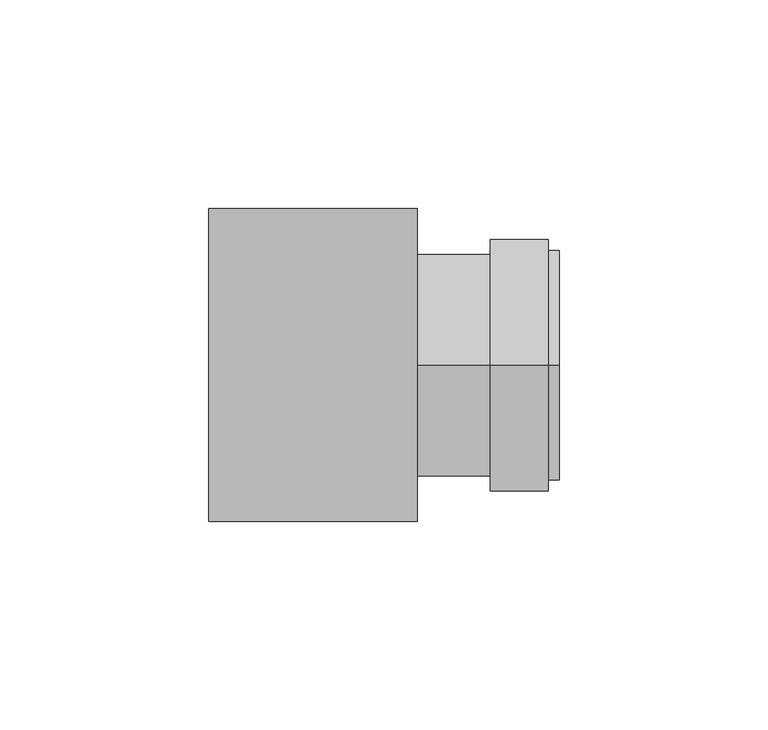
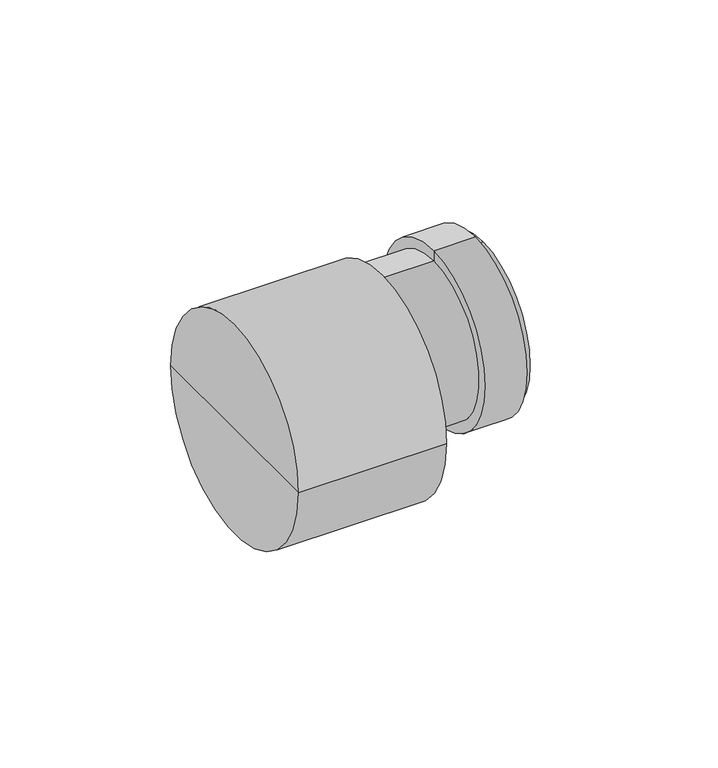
"""IFC4 building model written with IfcOpenShell, lengths in millimetres: pipe fitting geometry, NLRS_52_PIF_UN_Geberit Silent-PP verloop excentrisch, kort_PRO_135379 : DN50-100 / d50-110 - OD."""

from ifc_helpers import new_model, si_unit, frame, origin, place, context, project, spatial, polyline, circle_curve, source, transform, mapped, element, save
from ifc_brep_helpers import plane_surface, cylinder_surface, revolved_surface, advanced_brep


def pipe_fitting_2b616865(model_context):
    return source(origin(), model_context, "Body", "AdvancedBrep", [
        advanced_brep(
        [(42.5, 0.0, 35.0), (8.5, 0.0, 35.0), (8.5, 25.0, 10.0), (8.5, 0.0, -15.0), (42.5, 0.0, -15.0), (42.5, 25.0, 10.0), (42.5, -25.0, 10.0), (8.5, -25.0, 10.0), (42.5, 0.0, -17.6), (42.5, 0.0, 37.6), (39.9, 0.0, -17.6), (39.9, 0.0, 37.6), (39.9, 0.0, -20.2), (39.9, 0.0, 40.2), (25.9, 0.0, -20.2), (25.9, 0.0, 40.2), (8.5, 0.0, 36.6), (8.5, 0.0, -16.6), (25.9, 0.0, -16.6), (25.9, 0.0, 36.6)],
        [
            (0, 1),
            (1, 2, circle_curve(frame((8.5, 0.0, 10.0), z_axis=(-1.0, 0.0, 0.0), x_axis=(0.0, 0.0, 1.0)), 25.0)),
            (2, 3, circle_curve(frame((8.5, 0.0, 10.0), z_axis=(-1.0, 0.0, 0.0), x_axis=(0.0, 0.0, 1.0)), 25.0)),
            (3, 4),
            (4, 5, circle_curve(frame((42.5, 0.0, 10.0), z_axis=(1.0, 0.0, 0.0), x_axis=(0.0, 0.0, 1.0)), 25.0)),
            (5, 0, circle_curve(frame((42.5, 0.0, 10.0), z_axis=(1.0, 0.0, 0.0), x_axis=(0.0, 0.0, 1.0)), 25.0)),
            (0, 6, circle_curve(frame((42.5, 0.0, 10.0), z_axis=(1.0, 0.0, 0.0), x_axis=(0.0, 0.0, 1.0)), 25.0)),
            (6, 4, circle_curve(frame((42.5, 0.0, 10.0), z_axis=(1.0, 0.0, 0.0), x_axis=(0.0, 0.0, 1.0)), 25.0)),
            (3, 7, circle_curve(frame((8.5, 0.0, 10.0), z_axis=(-1.0, 0.0, 0.0), x_axis=(0.0, 0.0, 1.0)), 25.0)),
            (7, 1, circle_curve(frame((8.5, 0.0, 10.0), z_axis=(-1.0, 0.0, 0.0), x_axis=(0.0, 0.0, 1.0)), 25.0)),
            (8, 9, circle_curve(frame((42.5, 0.0, 10.0), z_axis=(1.0, 0.0, 0.0), x_axis=(0.0, 0.0, 1.0)), 27.6)),
            (9, 0),
            (4, 8),
            (9, 8, circle_curve(frame((42.5, 0.0, 10.0), z_axis=(1.0, 0.0, 0.0), x_axis=(0.0, 0.0, 1.0)), 27.6)),
            (8, 10),
            (10, 11, circle_curve(frame((39.9, 0.0, 10.0), z_axis=(1.0, 0.0, 0.0), x_axis=(0.0, 0.0, 1.0)), 27.6)),
            (11, 9),
            (11, 10, circle_curve(frame((39.9, 0.0, 10.0), z_axis=(1.0, 0.0, 0.0), x_axis=(0.0, 0.0, 1.0)), 27.6)),
            (10, 12),
            (12, 13, circle_curve(frame((39.9, 0.0, 10.0), z_axis=(1.0, 0.0, 0.0), x_axis=(0.0, 0.0, 1.0)), 30.2)),
            (13, 11),
            (13, 12, circle_curve(frame((39.9, 0.0, 10.0), z_axis=(1.0, 0.0, 0.0), x_axis=(0.0, 0.0, 1.0)), 30.2)),
            (12, 14),
            (14, 15, circle_curve(frame((25.9, 0.0, 10.0), z_axis=(1.0, 0.0, 0.0), x_axis=(0.0, 0.0, 1.0)), 30.2)),
            (15, 13),
            (15, 14, circle_curve(frame((25.9, 0.0, 10.0), z_axis=(1.0, 0.0, 0.0), x_axis=(0.0, 0.0, 1.0)), 30.2)),
            (1, 16),
            (16, 17, circle_curve(frame((8.5, 0.0, 10.0), z_axis=(-1.0, 0.0, 0.0), x_axis=(0.0, 0.0, 1.0)), 26.6)),
            (17, 3),
            (17, 16, circle_curve(frame((8.5, 0.0, 10.0), z_axis=(-1.0, 0.0, 0.0), x_axis=(0.0, 0.0, 1.0)), 26.6)),
            (18, 19, circle_curve(frame((25.9, 0.0, 10.0), z_axis=(1.0, 0.0, 0.0), x_axis=(0.0, 0.0, 1.0)), 26.6)),
            (19, 15),
            (14, 18),
            (19, 18, circle_curve(frame((25.9, 0.0, 10.0), z_axis=(1.0, 0.0, 0.0), x_axis=(0.0, 0.0, 1.0)), 26.6)),
            (18, 17),
            (16, 19),
        ],
        [
            revolved_surface(polyline([(8.5, 0.0, 35.0), (42.5, 0.0, 35.0)]), (3.7352713, 0.0, 10.0), (-1.0, 0.0, 0.0)),
            plane_surface(frame((42.5, 0.0, 10.0), z_axis=(1.0, 0.0, 0.0), x_axis=(0.0, 0.0, 1.0))),
            cylinder_surface(frame((3.7352713, 0.0, 10.0), z_axis=(-1.0, 0.0, 0.0), x_axis=(0.0, 0.0, 1.0)), 27.6),
            plane_surface(frame((39.9, 0.0, 10.0), z_axis=(1.0, 0.0, 0.0), x_axis=(0.0, 0.0, 1.0))),
            cylinder_surface(frame((3.7352713, 0.0, 10.0), z_axis=(-1.0, 0.0, 0.0), x_axis=(0.0, 0.0, 1.0)), 30.2),
            plane_surface(frame((8.5, 0.0, 10.0), z_axis=(-1.0, 0.0, 0.0), x_axis=(0.0, 0.0, 1.0))),
            plane_surface(frame((25.9, 0.0, 10.0), z_axis=(-1.0, 0.0, 0.0), x_axis=(0.0, 0.0, 1.0))),
            cylinder_surface(frame((-1447.7824091, 0.0, 10.0), z_axis=(-1.0, 0.0, 0.0), x_axis=(0.0, 0.0, 1.0)), 26.6),
        ],
        [
            (0, [[1, 2, 3, 4, 5, 6]]),
            (0, [[-1, 7, 8, -4, 9, 10]]),
            (1, [[11, 12, -6, -5, 13]]),
            (1, [[-12, 14, -13, -8, -7]]),
            (2, [[-11, 15, 16, 17]]),
            (2, [[-14, -17, 18, -15]]),
            (3, [[-16, 19, 20, 21]]),
            (3, [[-18, -21, 22, -19]]),
            (4, [[-20, 23, 24, 25]]),
            (4, [[-22, -25, 26, -23]]),
            (5, [[-2, 27, 28, 29, -3]]),
            (5, [[-9, -29, 30, -27, -10]]),
            (6, [[31, 32, -24, 33]]),
            (6, [[34, -33, -26, -32]]),
            (7, [[-31, 35, -28, 36]]),
            (7, [[-34, -36, -30, -35]]),
        ],
    ),
        advanced_brep(
        [(-14.5, 25.0, 10.0), (-14.5, -25.0, 10.0), (8.5, -25.0, 10.0), (8.5, -22.9128785, 0.0), (8.5, 22.9128785, 0.0), (8.5, 25.0, 10.0), (-14.5, 0.0, 10.0), (8.5, -37.5, 0.0), (8.5, 37.5, 0.0), (-41.5, -37.5, 0.0), (-41.5, 37.5, 0.0), (-41.5, 0.0, 0.0)],
        [
            (0, 1, circle_curve(frame((-14.5, 0.0, 10.0), z_axis=(-1.0, 0.0, 0.0), x_axis=(0.0, 1.0, 0.0)), 25.0)),
            (1, 2),
            (2, 3, circle_curve(frame((8.5, 0.0, 10.0), z_axis=(1.0, 0.0, 0.0), x_axis=(0.0, 1.0, 0.0)), 25.0)),
            (3, 4, circle_curve(frame((8.5, 0.0, 10.0), z_axis=(1.0, 0.0, 0.0), x_axis=(0.0, 1.0, 0.0)), 25.0)),
            (4, 5, circle_curve(frame((8.5, 0.0, 10.0), z_axis=(1.0, 0.0, 0.0), x_axis=(0.0, 1.0, 0.0)), 25.0)),
            (5, 0),
            (1, 0, circle_curve(frame((-14.5, 0.0, 10.0), z_axis=(-1.0, 0.0, 0.0), x_axis=(0.0, 1.0, 0.0)), 25.0)),
            (5, 2, circle_curve(frame((8.5, 0.0, 10.0), z_axis=(1.0, 0.0, 0.0), x_axis=(0.0, 1.0, 0.0)), 25.0)),
            (0, 6),
            (6, 1),
            (7, 8, circle_curve(frame((8.5, 0.0, 0.0), z_axis=(1.0, 0.0, 0.0), x_axis=(0.0, 1.0, 0.0)), 37.5)),
            (8, 4),
            (3, 7),
            (8, 7, circle_curve(frame((8.5, 0.0, 0.0), z_axis=(1.0, 0.0, 0.0), x_axis=(0.0, 1.0, 0.0)), 37.5)),
            (7, 9),
            (9, 10, circle_curve(frame((-41.5, 0.0, 0.0), z_axis=(1.0, 0.0, 0.0), x_axis=(0.0, 1.0, 0.0)), 37.5)),
            (10, 8),
            (10, 9, circle_curve(frame((-41.5, 0.0, 0.0), z_axis=(1.0, 0.0, 0.0), x_axis=(0.0, 1.0, 0.0)), 37.5)),
            (9, 11),
            (11, 10),
        ],
        [
            revolved_surface(polyline([(-14.5, 25.0, 10.0), (8.5, 25.0, 10.0)]), (1849.0, 0.0, 10.0), (-1.0, 0.0, 0.0)),
            plane_surface(frame((-14.5, 0.0, 10.0), z_axis=(1.0, 0.0, 0.0), x_axis=(0.0, 1.0, 0.0))),
            plane_surface(frame((8.5, 0.0, 0.0), z_axis=(1.0, 0.0, 0.0), x_axis=(0.0, 1.0, 0.0))),
            cylinder_surface(frame((1924.0, 0.0, 0.0), z_axis=(-1.0, 0.0, 0.0), x_axis=(0.0, 1.0, 0.0)), 37.5),
            plane_surface(frame((-41.5, 0.0, 0.0), z_axis=(-1.0, 0.0, 0.0), x_axis=(0.0, 1.0, 0.0))),
        ],
        [
            (0, [[1, 2, 3, 4, 5, 6]]),
            (0, [[7, -6, 8, -2]]),
            (1, [[-1, 9, 10]]),
            (1, [[-7, -10, -9]]),
            (2, [[11, 12, -4, 13]]),
            (2, [[14, -13, -3, -8, -5, -12]]),
            (3, [[-11, 15, 16, 17]]),
            (3, [[-14, -17, 18, -15]]),
            (4, [[-16, 19, 20]]),
            (4, [[-18, -20, -19]]),
        ],
    ),
    ])


if __name__ == "__main__":
    model = new_model("IFC4")
    model_context = context("Model", 3, world=origin())
    ifc_project = project(units=[si_unit("LENGTHUNIT", "METRE", prefix="MILLI")], contexts=[model_context])
    site = spatial("IfcSite", under=ifc_project)
    building = spatial("IfcBuilding", under=site)
    placement = place(None, origin())
    pipe_fitting_shape = pipe_fitting_2b616865(model_context)
    element("IfcPipeFitting", 1, ObjectType="NLRS_52_PIF_UN_Geberit Silent-PP verloop excentrisch, kort_PRO_135379 : DN50-100 / d50-110 - OD", at=placement, inside=building, context=model_context, shape_type="MappedRepresentation", body=[
        mapped(pipe_fitting_shape, transform((0.0, 0.0, 0.0), x_axis=(1.0, 0.0, 0.0), y_axis=(0.0, 1.0, 0.0), z_axis=(0.0, 0.0, 1.0))),
    ])
    save(model, "model.ifc")
